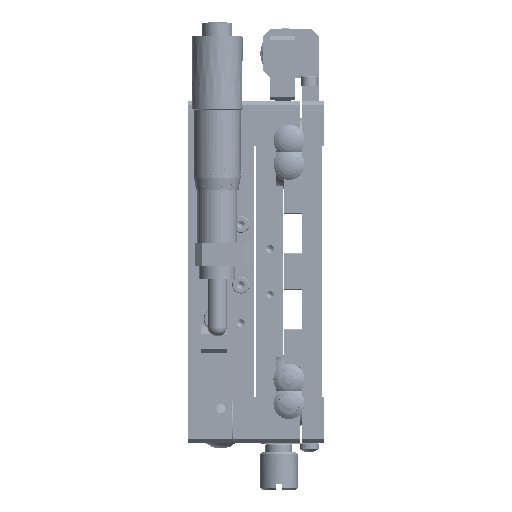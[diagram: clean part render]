
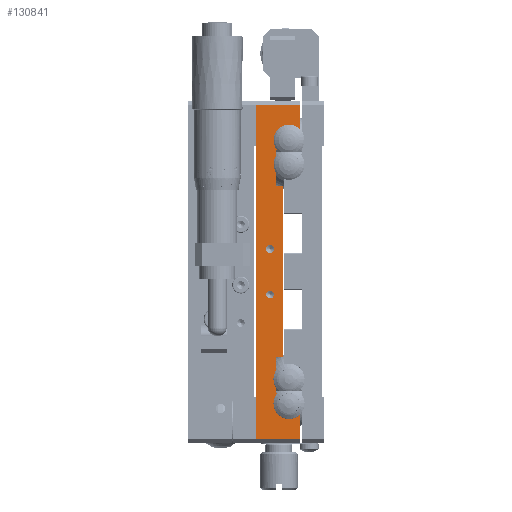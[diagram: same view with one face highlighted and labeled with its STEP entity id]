
A CAD part, left-side view. The second image highlights one B-rep face of the part: STEP entity #130841.
In plain terms, the highlighted planar face has unit normal (-1, 0, 0).
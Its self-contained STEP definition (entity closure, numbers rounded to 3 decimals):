
#1132 = DIRECTION ( 'NONE',  ( 0., 1., 0. ) ) ;
#3910 = VECTOR ( 'NONE', #210235, 1000. ) ;
#4951 = EDGE_CURVE ( 'NONE', #30967, #28740, #164375, .T. ) ;
#5189 = VERTEX_POINT ( 'NONE', #223119 ) ;
#5526 = VECTOR ( 'NONE', #92455, 1000. ) ;
#5534 = EDGE_CURVE ( 'NONE', #37018, #36485, #169178, .T. ) ;
#6045 = CARTESIAN_POINT ( 'NONE',  ( 0., 6.3, 37.7 ) ) ;
#7467 = CARTESIAN_POINT ( 'NONE',  ( 0., 12.6, -22.5 ) ) ;
#8050 = EDGE_CURVE ( 'NONE', #94587, #30923, #23533, .T. ) ;
#9567 = CARTESIAN_POINT ( 'NONE',  ( 0., 12.6, 31.5 ) ) ;
#9755 = EDGE_LOOP ( 'NONE', ( #143920 ) ) ;
#11217 = ORIENTED_EDGE ( 'NONE', *, *, #70836, .T. ) ;
#15070 = VECTOR ( 'NONE', #147430, 1000. ) ;
#15808 = LINE ( 'NONE', #160318, #38135 ) ;
#22127 = EDGE_CURVE ( 'NONE', #30923, #185845, #25927, .T. ) ;
#22317 = VECTOR ( 'NONE', #33530, 1000. ) ;
#23533 = LINE ( 'NONE', #104994, #5526 ) ;
#25927 = LINE ( 'NONE', #111845, #150744 ) ;
#26925 = CARTESIAN_POINT ( 'NONE',  ( 0., 14.3, -6. ) ) ;
#27104 = VECTOR ( 'NONE', #105123, 1000. ) ;
#28740 = VERTEX_POINT ( 'NONE', #110278 ) ;
#28799 = CARTESIAN_POINT ( 'NONE',  ( 0., 6.3, -45. ) ) ;
#30310 = VECTOR ( 'NONE', #132853, 1000. ) ;
#30923 = VERTEX_POINT ( 'NONE', #65029 ) ;
#30967 = VERTEX_POINT ( 'NONE', #209588 ) ;
#31650 = VECTOR ( 'NONE', #94794, 1000. ) ;
#33530 = DIRECTION ( 'NONE',  ( 0., 1., 0. ) ) ;
#36485 = VERTEX_POINT ( 'NONE', #79557 ) ;
#37018 = VERTEX_POINT ( 'NONE', #51021 ) ;
#37988 = VERTEX_POINT ( 'NONE', #166373 ) ;
#38135 = VECTOR ( 'NONE', #69967, 1000. ) ;
#41559 = LINE ( 'NONE', #127385, #102799 ) ;
#43102 = VECTOR ( 'NONE', #183826, 1000. ) ;
#43341 = CARTESIAN_POINT ( 'NONE',  ( 0., 14.3, 7.025 ) ) ;
#45937 = LINE ( 'NONE', #130657, #43102 ) ;
#47185 = AXIS2_PLACEMENT_3D ( 'NONE', #111688, #179518, #144487 ) ;
#48977 = VECTOR ( 'NONE', #1132, 1000. ) ;
#49064 = ORIENTED_EDGE ( 'NONE', *, *, #207919, .F. ) ;
#51021 = CARTESIAN_POINT ( 'NONE',  ( 0., 6.3, -37.5 ) ) ;
#52034 = LINE ( 'NONE', #136828, #27104 ) ;
#56817 = EDGE_CURVE ( 'NONE', #185845, #189973, #185999, .T. ) ;
#64339 = VERTEX_POINT ( 'NONE', #199829 ) ;
#65029 = CARTESIAN_POINT ( 'NONE',  ( 0., 12.3, 37.7 ) ) ;
#66757 = CARTESIAN_POINT ( 'NONE',  ( 0., 6.3, 44. ) ) ;
#69967 = DIRECTION ( 'NONE',  ( 0., -1., 0. ) ) ;
#70836 = EDGE_CURVE ( 'NONE', #37988, #116013, #173341, .T. ) ;
#71481 = ORIENTED_EDGE ( 'NONE', *, *, #198755, .F. ) ;
#72703 = CARTESIAN_POINT ( 'NONE',  ( 0., 6.3, -44. ) ) ;
#74685 = EDGE_CURVE ( 'NONE', #116013, #37018, #111799, .T. ) ;
#75377 = ORIENTED_EDGE ( 'NONE', *, *, #143367, .F. ) ;
#75674 = ORIENTED_EDGE ( 'NONE', *, *, #102676, .F. ) ;
#77728 = DIRECTION ( 'NONE',  ( 0., 0., -1. ) ) ;
#77800 = ORIENTED_EDGE ( 'NONE', *, *, #74685, .T. ) ;
#77896 = DIRECTION ( 'NONE',  ( 0., -1., 0. ) ) ;
#79557 = CARTESIAN_POINT ( 'NONE',  ( 0., 12.3, -37.5 ) ) ;
#80441 = DIRECTION ( 'NONE',  ( 0., -1., 0. ) ) ;
#87128 = VERTEX_POINT ( 'NONE', #7467 ) ;
#88151 = LINE ( 'NONE', #137921, #3910 ) ;
#89332 = ORIENTED_EDGE ( 'NONE', *, *, #4951, .F. ) ;
#91717 = ORIENTED_EDGE ( 'NONE', *, *, #117035, .T. ) ;
#92455 = DIRECTION ( 'NONE',  ( 0., 0., 1. ) ) ;
#94587 = VERTEX_POINT ( 'NONE', #158266 ) ;
#94794 = DIRECTION ( 'NONE',  ( 0., 0., 1. ) ) ;
#97050 = CARTESIAN_POINT ( 'NONE',  ( 0., 6.3, -45. ) ) ;
#97718 = DIRECTION ( 'NONE',  ( -1., 0., 0. ) ) ;
#100782 = ORIENTED_EDGE ( 'NONE', *, *, #5534, .T. ) ;
#102676 = EDGE_CURVE ( 'NONE', #174654, #109587, #149403, .T. ) ;
#102799 = VECTOR ( 'NONE', #145498, 1000. ) ;
#104994 = CARTESIAN_POINT ( 'NONE',  ( 0., 12.3, 31.5 ) ) ;
#105123 = DIRECTION ( 'NONE',  ( 0., 1., 0. ) ) ;
#107154 = EDGE_CURVE ( 'NONE', #135474, #5189, #41559, .T. ) ;
#109587 = VERTEX_POINT ( 'NONE', #210941 ) ;
#110278 = CARTESIAN_POINT ( 'NONE',  ( 0., 12.6, 22.5 ) ) ;
#111688 = CARTESIAN_POINT ( 'NONE',  ( 0., 14.3, 6. ) ) ;
#111799 = LINE ( 'NONE', #97050, #31650 ) ;
#111845 = CARTESIAN_POINT ( 'NONE',  ( 0., 6.3, 37.7 ) ) ;
#113955 = CARTESIAN_POINT ( 'NONE',  ( 0., 14.3, -4.975 ) ) ;
#114676 = FACE_BOUND ( 'NONE', #130766, .T. ) ;
#116013 = VERTEX_POINT ( 'NONE', #159948 ) ;
#117035 = EDGE_CURVE ( 'NONE', #36485, #109587, #45937, .T. ) ;
#127385 = CARTESIAN_POINT ( 'NONE',  ( 0., 11., 22.5 ) ) ;
#128687 = VECTOR ( 'NONE', #77728, 1000. ) ;
#130657 = CARTESIAN_POINT ( 'NONE',  ( 0., 12.3, -31.5 ) ) ;
#130766 = EDGE_LOOP ( 'NONE', ( #49064 ) ) ;
#130841 = ADVANCED_FACE ( 'NONE', ( #200573, #114676, #183647 ), #201710, .T. ) ;
#132853 = DIRECTION ( 'NONE',  ( 0., 0., 1. ) ) ;
#133082 = CARTESIAN_POINT ( 'NONE',  ( 0., 12.6, -22.5 ) ) ;
#134704 = CARTESIAN_POINT ( 'NONE',  ( 0., 12.6, -32. ) ) ;
#135474 = VERTEX_POINT ( 'NONE', #188328 ) ;
#136828 = CARTESIAN_POINT ( 'NONE',  ( 0., 12.6, 32. ) ) ;
#137348 = EDGE_CURVE ( 'NONE', #199840, #199840, #159705, .T. ) ;
#137921 = CARTESIAN_POINT ( 'NONE',  ( 0., 11., -22.5 ) ) ;
#141891 = ORIENTED_EDGE ( 'NONE', *, *, #196097, .F. ) ;
#143367 = EDGE_CURVE ( 'NONE', #94587, #30967, #52034, .T. ) ;
#143767 = ORIENTED_EDGE ( 'NONE', *, *, #8050, .T. ) ;
#143920 = ORIENTED_EDGE ( 'NONE', *, *, #137348, .F. ) ;
#144487 = DIRECTION ( 'NONE',  ( 0., 0., 1. ) ) ;
#145498 = DIRECTION ( 'NONE',  ( 0., 0., -1. ) ) ;
#145827 = EDGE_CURVE ( 'NONE', #87128, #174654, #182847, .T. ) ;
#147430 = DIRECTION ( 'NONE',  ( 0., 0., -1. ) ) ;
#149403 = LINE ( 'NONE', #134704, #152868 ) ;
#149736 = AXIS2_PLACEMENT_3D ( 'NONE', #28799, #97718, #218685 ) ;
#150744 = VECTOR ( 'NONE', #77896, 1000. ) ;
#152868 = VECTOR ( 'NONE', #80441, 1000. ) ;
#157282 = VECTOR ( 'NONE', #203131, 1000. ) ;
#158266 = CARTESIAN_POINT ( 'NONE',  ( 0., 12.3, 32. ) ) ;
#159705 = CIRCLE ( 'NONE', #195882, 1.025 ) ;
#159948 = CARTESIAN_POINT ( 'NONE',  ( 0., 6.3, -44. ) ) ;
#160318 = CARTESIAN_POINT ( 'NONE',  ( 0., 12.6, 22.5 ) ) ;
#163281 = DIRECTION ( 'NONE',  ( 0., 0., 1. ) ) ;
#164206 = VERTEX_POINT ( 'NONE', #43341 ) ;
#164375 = LINE ( 'NONE', #9567, #15070 ) ;
#166373 = CARTESIAN_POINT ( 'NONE',  ( 0., 18., -44. ) ) ;
#169178 = LINE ( 'NONE', #205353, #22317 ) ;
#173341 = LINE ( 'NONE', #72703, #157282 ) ;
#174654 = VERTEX_POINT ( 'NONE', #181679 ) ;
#176454 = EDGE_CURVE ( 'NONE', #5189, #87128, #88151, .T. ) ;
#178770 = ORIENTED_EDGE ( 'NONE', *, *, #197066, .T. ) ;
#179122 = VECTOR ( 'NONE', #163281, 1000. ) ;
#179518 = DIRECTION ( 'NONE',  ( -1., 0., 0. ) ) ;
#180709 = CIRCLE ( 'NONE', #47185, 1.025 ) ;
#181679 = CARTESIAN_POINT ( 'NONE',  ( 0., 12.6, -32. ) ) ;
#182847 = LINE ( 'NONE', #133082, #128687 ) ;
#183647 = FACE_OUTER_BOUND ( 'NONE', #210020, .T. ) ;
#183826 = DIRECTION ( 'NONE',  ( 0., 0., 1. ) ) ;
#185845 = VERTEX_POINT ( 'NONE', #6045 ) ;
#185999 = LINE ( 'NONE', #187128, #30310 ) ;
#187128 = CARTESIAN_POINT ( 'NONE',  ( 0., 6.3, -45. ) ) ;
#188328 = CARTESIAN_POINT ( 'NONE',  ( 0., 11., 22.5 ) ) ;
#189973 = VERTEX_POINT ( 'NONE', #205773 ) ;
#195234 = ORIENTED_EDGE ( 'NONE', *, *, #145827, .F. ) ;
#195882 = AXIS2_PLACEMENT_3D ( 'NONE', #26925, #214585, #219048 ) ;
#196097 = EDGE_CURVE ( 'NONE', #28740, #135474, #15808, .T. ) ;
#197066 = EDGE_CURVE ( 'NONE', #189973, #64339, #206854, .T. ) ;
#198755 = EDGE_CURVE ( 'NONE', #37988, #64339, #201690, .T. ) ;
#199829 = CARTESIAN_POINT ( 'NONE',  ( 0., 18., 44. ) ) ;
#199840 = VERTEX_POINT ( 'NONE', #113955 ) ;
#200573 = FACE_BOUND ( 'NONE', #9755, .T. ) ;
#200719 = ORIENTED_EDGE ( 'NONE', *, *, #56817, .T. ) ;
#201123 = ORIENTED_EDGE ( 'NONE', *, *, #107154, .F. ) ;
#201690 = LINE ( 'NONE', #219801, #179122 ) ;
#201710 = PLANE ( 'NONE',  #149736 ) ;
#203131 = DIRECTION ( 'NONE',  ( 0., -1., 0. ) ) ;
#205353 = CARTESIAN_POINT ( 'NONE',  ( 0., 6.3, -37.5 ) ) ;
#205773 = CARTESIAN_POINT ( 'NONE',  ( 0., 6.3, 44. ) ) ;
#206854 = LINE ( 'NONE', #66757, #48977 ) ;
#207919 = EDGE_CURVE ( 'NONE', #164206, #164206, #180709, .T. ) ;
#209455 = ORIENTED_EDGE ( 'NONE', *, *, #22127, .T. ) ;
#209588 = CARTESIAN_POINT ( 'NONE',  ( 0., 12.6, 32. ) ) ;
#210020 = EDGE_LOOP ( 'NONE', ( #89332, #75377, #143767, #209455, #200719, #178770, #71481, #11217, #77800, #100782, #91717, #75674, #195234, #220559, #201123, #141891 ) ) ;
#210235 = DIRECTION ( 'NONE',  ( 0., 1., 0. ) ) ;
#210941 = CARTESIAN_POINT ( 'NONE',  ( 0., 12.3, -32. ) ) ;
#214585 = DIRECTION ( 'NONE',  ( -1., 0., 0. ) ) ;
#218685 = DIRECTION ( 'NONE',  ( 0., 0., 1. ) ) ;
#219048 = DIRECTION ( 'NONE',  ( 0., 0., 1. ) ) ;
#219801 = CARTESIAN_POINT ( 'NONE',  ( 0., 18., -45. ) ) ;
#220559 = ORIENTED_EDGE ( 'NONE', *, *, #176454, .F. ) ;
#223119 = CARTESIAN_POINT ( 'NONE',  ( 0., 11., -22.5 ) ) ;
